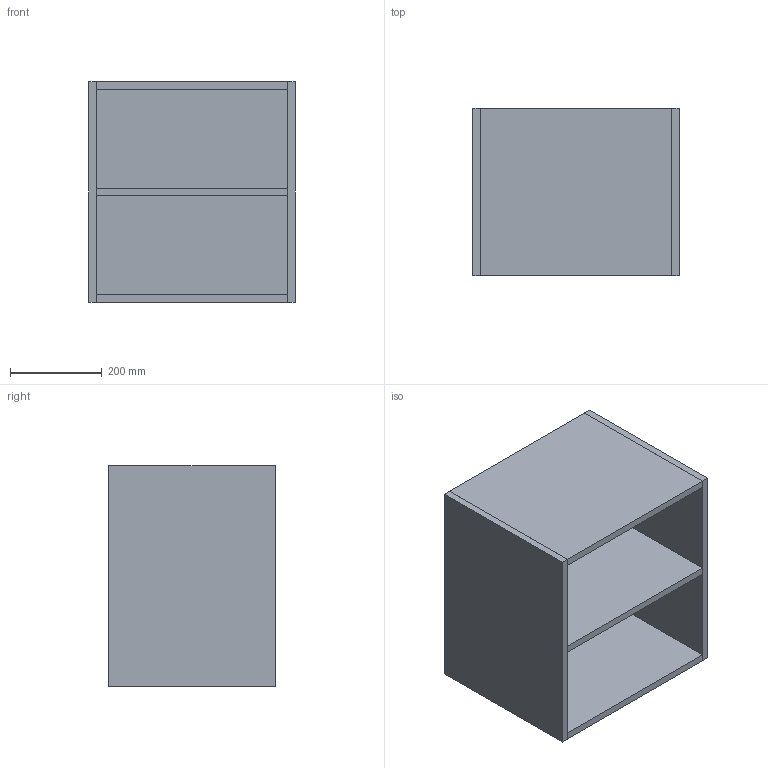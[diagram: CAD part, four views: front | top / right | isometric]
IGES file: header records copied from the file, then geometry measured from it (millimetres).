
Start section: Data from Parasolid IGES Translator 19.0.9, Copyright(c) 2006 Siemens PL M Software. All Rights Reserved.
Global section: file name: noorth-SI-H 48 D 38,8 W 45_8456.igs; native system: By Siemens PLM Incorporated; preprocessor: XPlus GENERIC/IGES 19.0.9; author: Noname; organization: Noname; date: 20200601.103902; units: metre
Bounding box: 450.01 x 364.06 x 480 mm (x, y, z)
Volume: 13431960.1 mm3; surface area: 2120526.6 mm2
Topology: 6 solids, 6 shells, 36 faces, 72 edges, 48 vertices
Faces by surface type: plane 36
